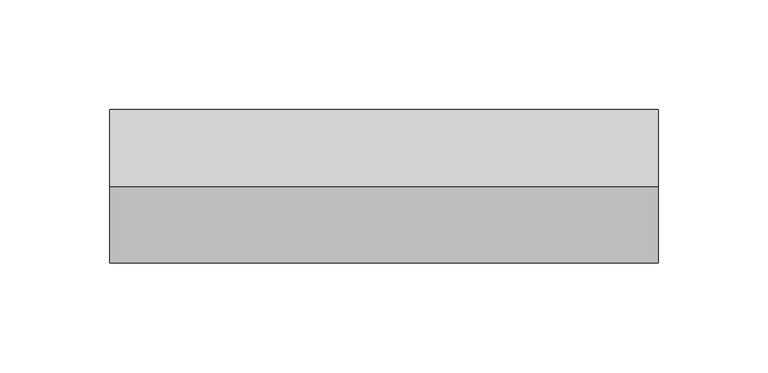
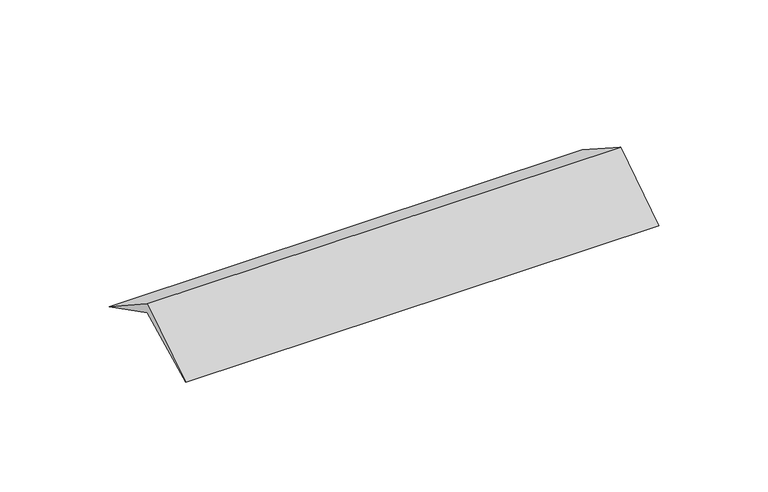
"""IFC4 building model written with IfcOpenShell, lengths in millimetres: cable carrier fitting geometry, КНС_НакладкаНаСтыкФронтальныхКрышекКоробов_ILF_DKC : Накладка на стык фронтальных крышек коробов."""

from ifc_helpers import new_model, si_unit, frame, origin, place, context, project, spatial, polyline, outline, extrude, source, transform, mapped, element, save


def cable_carrier_fitting_55dd1e67(model_context):
    return source(origin(), model_context, "Body", "SweptSolid", [
        extrude(outline(polyline([(0.0, 42.7), (-35.0, 25.0), (0.0, 47.7), (35.0, 25.0), (0.0, 42.7)])), frame((-125.0, 0.0, 0.0), z_axis=(1.0, 0.0, 0.0), x_axis=(0.0, 1.0, 0.0)), (0.0, 0.0, 1.0), 250.0),
    ])


if __name__ == "__main__":
    model = new_model("IFC4")
    model_context = context("Model", 3, world=origin())
    ifc_project = project(units=[si_unit("LENGTHUNIT", "METRE", prefix="MILLI")], contexts=[model_context])
    site = spatial("IfcSite", under=ifc_project)
    building = spatial("IfcBuilding", under=site)
    placement = place(None, origin())
    cable_carrier_fitting_shape = cable_carrier_fitting_55dd1e67(model_context)
    element("IfcCableCarrierFitting", 1, ObjectType="КНС_НакладкаНаСтыкФронтальныхКрышекКоробов_ILF_DKC : Накладка на стык фронтальных крышек коробов", at=placement, inside=building, context=model_context, shape_type="MappedRepresentation", body=[
        mapped(cable_carrier_fitting_shape, transform((0.0, 0.0, 0.0), x_axis=(1.0, 0.0, 0.0), y_axis=(0.0, 1.0, 0.0), z_axis=(0.0, 0.0, 1.0))),
    ])
    save(model, "model.ifc")
